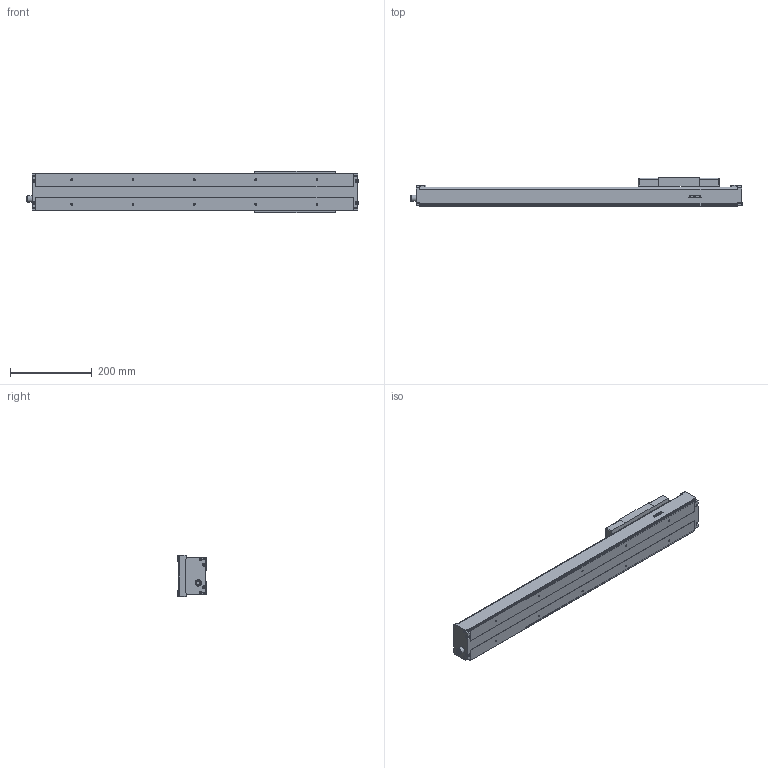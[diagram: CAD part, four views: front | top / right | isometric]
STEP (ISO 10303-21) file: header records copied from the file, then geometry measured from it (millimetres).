
FILE_DESCRIPTION(/* description */ (''),/* implementation_level */ '2;1');
FILE_NAME(/* name */ 'D:\混合母檔20191031\混和母檔\混和母檔\bin\Debug\Download\3D\KS90-10C-500AF0\KS90-10C-500AF0.stp',/* time_stamp */ '2019-11-04T14:42:49+08:00',/* author */ ('user'),/* organization */ (''),/* preprocessor_version */ 'ST-DEVELOPER v16.13',/* originating_system */ 'Autodesk Inventor 2018',/* authorisation */ '');
FILE_SCHEMA (('AUTOMOTIVE_DESIGN { 1 0 10303 214 3 1 1 }'));
Length unit declared in the file: millimetre
Products named in the file (3): KS90-10C-500AF0; KS90-F0; KS90-SL
Assembly tree (2 placements, depth 2):
  KS90-10C-500AF0
    KS90-F0
    KS90-SL
Bounding box: 811.6 x 68.5 x 102.4 mm (x, y, z)
Volume: 1324066.8 mm3; surface area: 520326.6 mm2
Topology: 3 solids, 13 shells, 1017 faces, 2790 edges, 1842 vertices
Faces by surface type: plane 563, cylinder 146, bspline 136, cone 120, torus 48, sphere 4
Full cylindrical faces by diameter (mm): 2.113 x2, 2.459 x8, 2.5 x4, 2.693 x8, 3 x12, 3.242 x6, 3.5 x8, 4 x7, 4.134 x10, 4.5 x8, 4.917 x4, 5.5 x12, 6 x3, 7 x4, 8 x2, 10.437 x1, 11 x1, 11.5 x1, 14 x1, 15.538 x1, 28 x1, 30 x1
Entity records: 37861 total; most frequent: CARTESIAN_POINT 14048, ORIENTED_EDGE 5014, DIRECTION 4448, EDGE_CURVE 2507, VERTEX_POINT 1729, LINE 1498, VECTOR 1498, AXIS2_PLACEMENT_3D 1475
